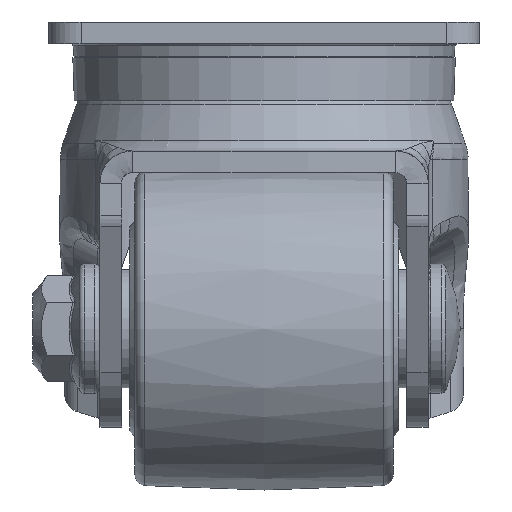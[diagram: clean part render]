
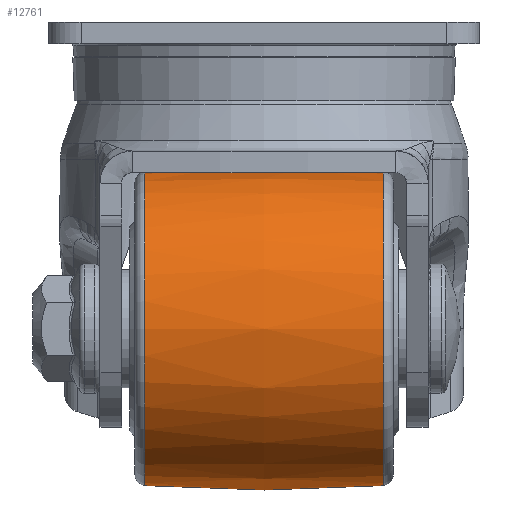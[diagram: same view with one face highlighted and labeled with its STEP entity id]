
A CAD part, left-side view. The second image highlights one B-rep face of the part: STEP entity #12761.
In plain terms, the highlighted free-form (B-spline) face has degree [2, 2] with [3, 9] control points.
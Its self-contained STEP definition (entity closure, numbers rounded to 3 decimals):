
#211=(
BOUNDED_SURFACE()
B_SPLINE_SURFACE(2,2,((#17738,#17739,#17740,#17741,#17742,#17743,#17744,
#17745,#17746),(#17747,#17748,#17749,#17750,#17751,#17752,#17753,#17754,
#17755),(#17756,#17757,#17758,#17759,#17760,#17761,#17762,#17763,#17764)),
 .UNSPECIFIED.,.F.,.T.,.F.)
B_SPLINE_SURFACE_WITH_KNOTS((3,3),(3,2,2,2,3),(-0.074,0.074),
(-3.142,-1.571,0.,1.571,3.142),
 .UNSPECIFIED.)
GEOMETRIC_REPRESENTATION_ITEM()
RATIONAL_B_SPLINE_SURFACE(((1.,0.707,1.,0.707,1.,
0.707,1.,0.707,1.),(0.997,0.705,
0.997,0.705,0.997,0.705,
0.997,0.705,0.997),(1.,0.707,
1.,0.707,1.,0.707,1.,0.707,1.)))
REPRESENTATION_ITEM('')
SURFACE()
);
#876=FACE_OUTER_BOUND('',#1583,.T.);
#1583=EDGE_LOOP('',(#8930,#8931,#8932,#8933));
#5514=CIRCLE('',#13498,29.181);
#5516=CIRCLE('',#13501,300.);
#5517=CIRCLE('',#13502,29.181);
#5701=VERTEX_POINT('',#17732);
#5703=VERTEX_POINT('',#17765);
#6971=EDGE_CURVE('',#5701,#5701,#5514,.T.);
#6973=EDGE_CURVE('',#5701,#5703,#5516,.T.);
#6974=EDGE_CURVE('',#5703,#5703,#5517,.T.);
#8930=ORIENTED_EDGE('',*,*,#6971,.F.);
#8931=ORIENTED_EDGE('',*,*,#6973,.T.);
#8932=ORIENTED_EDGE('',*,*,#6974,.T.);
#8933=ORIENTED_EDGE('',*,*,#6973,.F.);
#12761=ADVANCED_FACE('',(#876),#211,.F.);
#13498=AXIS2_PLACEMENT_3D('',#17734,#14427,#14428);
#13501=AXIS2_PLACEMENT_3D('',#17766,#14433,#14434);
#13502=AXIS2_PLACEMENT_3D('',#17767,#14435,#14436);
#14427=DIRECTION('center_axis',(0.,1.,0.));
#14428=DIRECTION('ref_axis',(-1.,0.,0.));
#14433=DIRECTION('center_axis',(1.,0.,0.));
#14434=DIRECTION('ref_axis',(0.,0.,
1.));
#14435=DIRECTION('center_axis',(0.,1.,0.));
#14436=DIRECTION('ref_axis',(-1.,0.,0.));
#17732=CARTESIAN_POINT('',(-21.,22.148,18.051));
#17734=CARTESIAN_POINT('Origin',(-21.,22.148,-11.13));
#17738=CARTESIAN_POINT('Ctrl Pts',(-21.,22.148,18.051));
#17739=CARTESIAN_POINT('Ctrl Pts',(-50.181,22.148,18.051));
#17740=CARTESIAN_POINT('Ctrl Pts',(-50.181,22.148,-11.13));
#17741=CARTESIAN_POINT('Ctrl Pts',(-50.181,22.148,-40.311));
#17742=CARTESIAN_POINT('Ctrl Pts',(-21.,22.148,-40.311));
#17743=CARTESIAN_POINT('Ctrl Pts',(8.181,22.148,-40.311));
#17744=CARTESIAN_POINT('Ctrl Pts',(8.181,22.148,-11.13));
#17745=CARTESIAN_POINT('Ctrl Pts',(8.181,22.148,18.051));
#17746=CARTESIAN_POINT('Ctrl Pts',(-21.,22.148,18.051));
#17747=CARTESIAN_POINT('Ctrl Pts',(-21.,0.,
19.691));
#17748=CARTESIAN_POINT('Ctrl Pts',(-51.821,0.,
19.691));
#17749=CARTESIAN_POINT('Ctrl Pts',(-51.821,0.,
-11.13));
#17750=CARTESIAN_POINT('Ctrl Pts',(-51.821,0.,
-41.951));
#17751=CARTESIAN_POINT('Ctrl Pts',(-21.,0.,
-41.951));
#17752=CARTESIAN_POINT('Ctrl Pts',(9.821,0.,
-41.951));
#17753=CARTESIAN_POINT('Ctrl Pts',(9.821,0.,
-11.13));
#17754=CARTESIAN_POINT('Ctrl Pts',(9.821,0.,
19.691));
#17755=CARTESIAN_POINT('Ctrl Pts',(-21.,0.,
19.691));
#17756=CARTESIAN_POINT('Ctrl Pts',(-21.,-22.148,
18.051));
#17757=CARTESIAN_POINT('Ctrl Pts',(-50.181,-22.148,
18.051));
#17758=CARTESIAN_POINT('Ctrl Pts',(-50.181,-22.148,
-11.13));
#17759=CARTESIAN_POINT('Ctrl Pts',(-50.181,-22.148,
-40.311));
#17760=CARTESIAN_POINT('Ctrl Pts',(-21.,-22.148,
-40.311));
#17761=CARTESIAN_POINT('Ctrl Pts',(8.181,-22.148,-40.311));
#17762=CARTESIAN_POINT('Ctrl Pts',(8.181,-22.148,-11.13));
#17763=CARTESIAN_POINT('Ctrl Pts',(8.181,-22.148,18.051));
#17764=CARTESIAN_POINT('Ctrl Pts',(-21.,-22.148,
18.051));
#17765=CARTESIAN_POINT('',(-21.,-22.148,18.051));
#17766=CARTESIAN_POINT('Origin',(-21.,0.,
-281.13));
#17767=CARTESIAN_POINT('Origin',(-21.,-22.148,-11.13));
